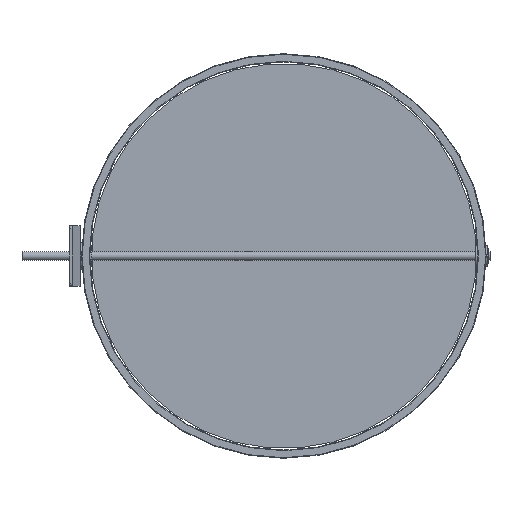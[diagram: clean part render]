
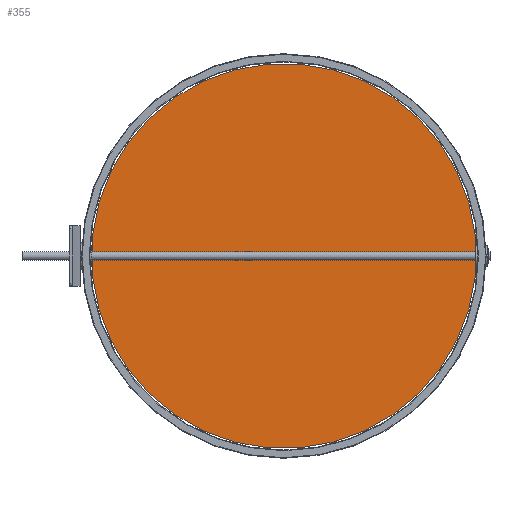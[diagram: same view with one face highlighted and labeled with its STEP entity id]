
A CAD part, left-side view. The second image highlights one B-rep face of the part: STEP entity #355.
In plain terms, the highlighted planar face has unit normal (-1, 0, 0).
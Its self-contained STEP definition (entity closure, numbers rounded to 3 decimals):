
#137=FACE_BOUND('',#507,.T.);
#138=FACE_BOUND('',#508,.T.);
#139=FACE_BOUND('',#509,.T.);
#140=FACE_BOUND('',#510,.T.);
#141=FACE_BOUND('',#511,.T.);
#142=FACE_BOUND('',#512,.T.);
#143=FACE_BOUND('',#513,.T.);
#144=FACE_BOUND('',#514,.T.);
#273=CIRCLE('',#1200,352.);
#274=CIRCLE('',#1203,3.05);
#276=CIRCLE('',#1206,3.05);
#278=CIRCLE('',#1209,3.05);
#280=CIRCLE('',#1212,3.05);
#282=CIRCLE('',#1215,3.05);
#284=CIRCLE('',#1218,3.05);
#287=CIRCLE('',#1222,352.);
#288=CIRCLE('',#1224,3.05);
#355=ADVANCED_FACE('',(#137,#138,#139,#140,#141,#142,#143,#144),#425,.T.);
#425=PLANE('',#1227);
#507=EDGE_LOOP('',(#663,#664,#665,#666));
#508=EDGE_LOOP('',(#667));
#509=EDGE_LOOP('',(#668));
#510=EDGE_LOOP('',(#669));
#511=EDGE_LOOP('',(#670));
#512=EDGE_LOOP('',(#671));
#513=EDGE_LOOP('',(#672));
#514=EDGE_LOOP('',(#673));
#663=ORIENTED_EDGE('',*,*,#1000,.T.);
#664=ORIENTED_EDGE('',*,*,#979,.T.);
#665=ORIENTED_EDGE('',*,*,#983,.T.);
#666=ORIENTED_EDGE('',*,*,#986,.T.);
#667=ORIENTED_EDGE('',*,*,#997,.T.);
#668=ORIENTED_EDGE('',*,*,#995,.F.);
#669=ORIENTED_EDGE('',*,*,#993,.F.);
#670=ORIENTED_EDGE('',*,*,#991,.F.);
#671=ORIENTED_EDGE('',*,*,#989,.F.);
#672=ORIENTED_EDGE('',*,*,#987,.F.);
#673=ORIENTED_EDGE('',*,*,#1001,.F.);
#883=VERTEX_POINT('',#1706);
#884=VERTEX_POINT('',#1708);
#886=VERTEX_POINT('',#1714);
#888=VERTEX_POINT('',#1720);
#889=VERTEX_POINT('',#1724);
#891=VERTEX_POINT('',#1729);
#893=VERTEX_POINT('',#1734);
#895=VERTEX_POINT('',#1739);
#897=VERTEX_POINT('',#1744);
#899=VERTEX_POINT('',#1749);
#901=VERTEX_POINT('',#1757);
#979=EDGE_CURVE('',#884,#883,#1103,.T.);
#983=EDGE_CURVE('',#883,#886,#273,.T.);
#986=EDGE_CURVE('',#886,#888,#1108,.T.);
#987=EDGE_CURVE('',#889,#889,#274,.T.);
#989=EDGE_CURVE('',#891,#891,#276,.T.);
#991=EDGE_CURVE('',#893,#893,#278,.T.);
#993=EDGE_CURVE('',#895,#895,#280,.T.);
#995=EDGE_CURVE('',#897,#897,#282,.T.);
#997=EDGE_CURVE('',#899,#899,#284,.T.);
#1000=EDGE_CURVE('',#888,#884,#287,.T.);
#1001=EDGE_CURVE('',#901,#901,#288,.T.);
#1103=LINE('',#1707,#1151);
#1108=LINE('',#1721,#1156);
#1151=VECTOR('',#1353,1.);
#1156=VECTOR('',#1366,1.);
#1200=AXIS2_PLACEMENT_3D('',#1715,#1360,#1361);
#1203=AXIS2_PLACEMENT_3D('',#1723,#1369,#1370);
#1206=AXIS2_PLACEMENT_3D('',#1728,#1375,#1376);
#1209=AXIS2_PLACEMENT_3D('',#1733,#1381,#1382);
#1212=AXIS2_PLACEMENT_3D('',#1738,#1387,#1388);
#1215=AXIS2_PLACEMENT_3D('',#1743,#1393,#1394);
#1218=AXIS2_PLACEMENT_3D('',#1748,#1399,#1400);
#1222=AXIS2_PLACEMENT_3D('',#1754,#1407,#1408);
#1224=AXIS2_PLACEMENT_3D('',#1756,#1411,#1412);
#1227=AXIS2_PLACEMENT_3D('',#1761,#1417,#1418);
#1353=DIRECTION('',(0.,0.,1.));
#1360=DIRECTION('',(-1.,0.,0.));
#1361=DIRECTION('',(0.,0.,1.));
#1366=DIRECTION('',(0.,0.,-1.));
#1369=DIRECTION('',(-1.,0.,0.));
#1370=DIRECTION('',(0.,0.,1.));
#1375=DIRECTION('',(-1.,0.,0.));
#1376=DIRECTION('',(0.,0.,1.));
#1381=DIRECTION('',(-1.,0.,0.));
#1382=DIRECTION('',(0.,0.,1.));
#1387=DIRECTION('',(-1.,0.,0.));
#1388=DIRECTION('',(0.,0.,1.));
#1393=DIRECTION('',(-1.,0.,0.));
#1394=DIRECTION('',(0.,0.,1.));
#1399=DIRECTION('',(1.,0.,0.));
#1400=DIRECTION('',(0.,0.,1.));
#1407=DIRECTION('',(-1.,0.,0.));
#1408=DIRECTION('',(0.,0.,1.));
#1411=DIRECTION('',(-1.,0.,0.));
#1412=DIRECTION('',(0.,0.,1.));
#1417=DIRECTION('',(-1.,0.,0.));
#1418=DIRECTION('',(0.,0.,1.));
#1706=CARTESIAN_POINT('',(-0.7,-459.,162.47));
#1707=CARTESIAN_POINT('',(-0.7,-459.,87.53));
#1708=CARTESIAN_POINT('',(-0.7,-459.,87.53));
#1714=CARTESIAN_POINT('',(-0.7,241.,162.47));
#1715=CARTESIAN_POINT('',(-0.7,-109.,125.));
#1720=CARTESIAN_POINT('',(-0.7,241.,87.53));
#1721=CARTESIAN_POINT('',(-0.7,241.,162.47));
#1723=CARTESIAN_POINT('',(-0.7,196.,125.));
#1724=CARTESIAN_POINT('',(-0.7,196.,128.05));
#1728=CARTESIAN_POINT('',(-0.7,-414.,125.));
#1729=CARTESIAN_POINT('',(-0.7,-414.,128.05));
#1733=CARTESIAN_POINT('',(-0.7,46.,125.));
#1734=CARTESIAN_POINT('',(-0.7,46.,128.05));
#1738=CARTESIAN_POINT('',(-0.7,-264.,125.));
#1739=CARTESIAN_POINT('',(-0.7,-264.,128.05));
#1743=CARTESIAN_POINT('',(-0.7,-109.,125.));
#1744=CARTESIAN_POINT('',(-0.7,-109.,128.05));
#1748=CARTESIAN_POINT('',(-0.7,-439.,125.));
#1749=CARTESIAN_POINT('',(-0.7,-439.,128.05));
#1754=CARTESIAN_POINT('',(-0.7,-109.,125.));
#1756=CARTESIAN_POINT('',(-0.7,221.,125.));
#1757=CARTESIAN_POINT('',(-0.7,221.,128.05));
#1761=CARTESIAN_POINT('',(-0.7,-109.,125.));
